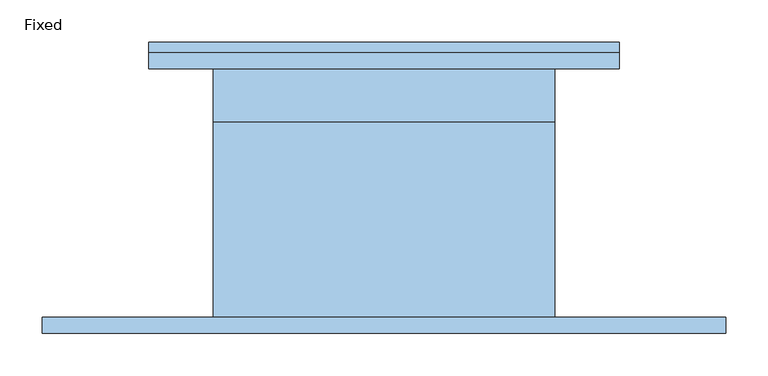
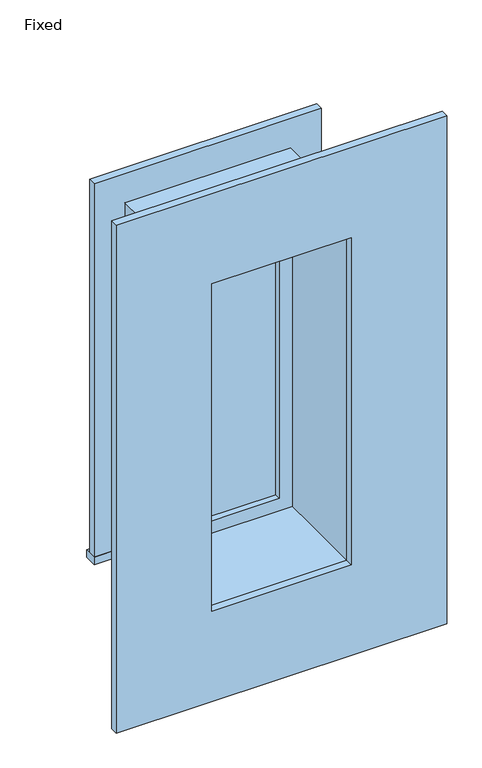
"""IFC4 building model written with IfcOpenShell, lengths in millimetres: window geometry."""

import ifcopenshell
import ifcopenshell.guid

model = None  # the IFC model being written
_history = None  # IfcOwnerHistory: only IFC2X3 demands one
_inside = {}  # id of a spatial element -> (the spatial element, [elements in it])
_under = {}  # id of a project, library or spatial element -> (it, [spatial elements below it])
_declared = {}  # id of a project -> (the project, [libraries it declares])
_typed = {}  # id of a type object -> (the type object, [elements of that type])
_made_of = {}  # id of a material, layer set ... -> (it, [elements and type objects made of it])


def new_model(schema):
    """Start an empty IFC model of exactly this schema.

    Asked for "IFC4X3", IfcOpenShell would pick the latest addendum, in which some entities
    have other attributes; the version numbers below select the first issue.
    IFC2X3 requires an IfcOwnerHistory on every rooted entity: one is made here for all.
    """
    global model, _history
    if schema == "IFC4X3":
        model = ifcopenshell.file(schema_version=(4, 3, 0, 0))
    else:
        model = ifcopenshell.file(schema=schema)
    _inside.clear()
    _under.clear()
    _declared.clear()
    _typed.clear()
    _made_of.clear()
    _history = None
    if model.schema == "IFC2X3":
        org = make("IfcOrganization", Name="unknown")
        user = make(
            "IfcPersonAndOrganization",
            ThePerson=make("IfcPerson", FamilyName="unknown"),
            TheOrganization=org,
        )
        app = make(
            "IfcApplication",
            ApplicationDeveloper=org,
            Version="unknown",
            ApplicationFullName="unknown",
            ApplicationIdentifier="unknown",
        )
        _history = make(
            "IfcOwnerHistory",
            OwningUser=user,
            OwningApplication=app,
            ChangeAction="ADDED",
            CreationDate=0,
        )
    return model


def make(cls, **values):
    """One entity of the class cls with the attributes given. An attribute that is None is left unset."""
    return model.create_entity(
        cls, **{name: value for name, value in values.items() if value is not None}
    )


def rooted(cls, **values):
    """An entity with a GlobalId (a new one), such as an element, a storey or a relation."""
    return make(cls, GlobalId=ifcopenshell.guid.new(), OwnerHistory=_history, **values)


def si_unit(unit_type, name, prefix=None):
    """IfcSIUnit, for example si_unit("LENGTHUNIT", "METRE", prefix="MILLI")."""
    return make("IfcSIUnit", UnitType=unit_type, Prefix=prefix, Name=name)


def assignment(units):
    """IfcUnitAssignment: the units of a project."""
    return None if units is None else make("IfcUnitAssignment", Units=units)


def point(xyz):
    """IfcCartesianPoint."""
    return None if xyz is None else make("IfcCartesianPoint", Coordinates=xyz)


def direction(xyz):
    """IfcDirection."""
    return None if xyz is None else make("IfcDirection", DirectionRatios=xyz)


def frame(location, z_axis=None, x_axis=None):
    """IfcAxis2Placement3D, a coordinate frame: its origin and axes. An axis left out is left unset."""
    return make(
        "IfcAxis2Placement3D",
        Location=point(location),
        Axis=direction(z_axis),
        RefDirection=direction(x_axis),
    )


def origin():
    """The frame at (0, 0, 0) with its axes left unset."""
    return frame((0.0, 0.0, 0.0))


def place(relative_to, where):
    """IfcLocalPlacement: puts the frame where relative to a parent placement (None: the world)."""
    return make(
        "IfcLocalPlacement", PlacementRelTo=relative_to, RelativePlacement=where
    )


def context(
    kind, dimensions, precision=None, world=None, true_north=None, identifier=None
):
    """IfcGeometricRepresentationContext, for example the 3D "Model" context."""
    return make(
        "IfcGeometricRepresentationContext",
        ContextIdentifier=identifier,
        ContextType=kind,
        CoordinateSpaceDimension=dimensions,
        Precision=precision,
        WorldCoordinateSystem=world,
        TrueNorth=true_north,
    )


def project(units=None, contexts=None):
    """IfcProject with its units and contexts."""
    return rooted(
        "IfcProject",
        Name="project",
        RepresentationContexts=contexts,
        UnitsInContext=assignment(units),
    )


def spatial(cls, under=None, at=None, **own):
    """A site, building, storey or space (cls), placed at a placement, below another one or the project."""
    s = rooted(cls, ObjectPlacement=at, **own)
    if under is not None:
        _under.setdefault(under.id(), (under, []))[1].append(s)
    return s


def polyline(points):
    """IfcPolyline through the points."""
    return make("IfcPolyline", Points=[point(p) for p in points])


def outline(outer, holes=None, kind="AREA"):
    """IfcArbitraryClosedProfileDef: a profile drawn as a closed curve; with holes, ...WithVoids."""
    if holes is None:
        return make("IfcArbitraryClosedProfileDef", ProfileType=kind, OuterCurve=outer)
    return make(
        "IfcArbitraryProfileDefWithVoids",
        ProfileType=kind,
        OuterCurve=outer,
        InnerCurves=holes,
    )


def extrude(swept, where, along, depth):
    """IfcExtrudedAreaSolid: the profile swept, set in the frame where, extruded along a direction by depth."""
    return make(
        "IfcExtrudedAreaSolid",
        SweptArea=swept,
        Position=where,
        ExtrudedDirection=direction(along),
        Depth=depth,
    )


def shape(context_of_items, identifier, shape_type, items):
    """IfcShapeRepresentation: the items that make up one representation, for example the "Body"."""
    return make(
        "IfcShapeRepresentation",
        ContextOfItems=context_of_items,
        RepresentationIdentifier=identifier,
        RepresentationType=shape_type,
        Items=items,
    )


def source(mapping_origin, context_of_items, identifier, shape_type, items):
    """IfcRepresentationMap: a shape defined once, which mapped items show again and again."""
    return make(
        "IfcRepresentationMap",
        MappingOrigin=mapping_origin,
        MappedRepresentation=shape(context_of_items, identifier, shape_type, items),
    )


def transform(
    local_origin,
    x_axis=None,
    y_axis=None,
    z_axis=None,
    scale=None,
    scale2=None,
    scale3=None,
    uniform=True,
):
    """IfcCartesianTransformationOperator3D, or its non-uniform kind. x_axis, y_axis, z_axis: its Axis1, 2, 3."""
    if uniform:
        return make(
            "IfcCartesianTransformationOperator3D",
            Axis1=direction(x_axis),
            Axis2=direction(y_axis),
            LocalOrigin=point(local_origin),
            Scale=scale,
            Axis3=direction(z_axis),
        )
    return make(
        "IfcCartesianTransformationOperator3DnonUniform",
        Axis1=direction(x_axis),
        Axis2=direction(y_axis),
        LocalOrigin=point(local_origin),
        Scale=scale,
        Axis3=direction(z_axis),
        Scale2=scale2,
        Scale3=scale3,
    )


def mapped(mapping_source, mapping_target):
    """IfcMappedItem: shows the shape of a source again, moved by a transform."""
    return make(
        "IfcMappedItem", MappingSource=mapping_source, MappingTarget=mapping_target
    )


def made_of(thing, what):
    """Note that an element or type object is made of a material, layer set ...; save() writes the relation."""
    if what is not None:
        _made_of.setdefault(what.id(), (what, []))[1].append(thing)
    return thing


def element(
    cls,
    number,
    at=None,
    inside=None,
    cuts=None,
    type_object=None,
    material=None,
    context=None,
    identifier="Body",
    shape_type=None,
    held_by="IfcProductDefinitionShape",
    body=None,
    shapes=None,
    **own,
):
    """One element of the class cls, such as IfcWall. Its Tag is "e" and its number.

    at: its placement. inside: the storey or other place that contains it. cuts: it is an
    opening in that element (IfcRelVoidsElement). A single representation is given by context,
    identifier, shape_type and body (its items); several are given by shapes. held_by: the class
    of the entity that holds the representations. save() writes the other relations.
    """
    e = rooted(cls, Tag="e%d" % number, ObjectPlacement=at, **own)
    if body is not None:
        shapes = [shape(context, identifier, shape_type, body)]
    if shapes is not None:
        e.Representation = make(held_by, Representations=shapes)
    if inside is not None:
        _inside.setdefault(inside.id(), (inside, []))[1].append(e)
    if cuts is not None:
        rooted(
            "IfcRelVoidsElement", RelatingBuildingElement=cuts, RelatedOpeningElement=e
        )
    if type_object is not None:
        _typed.setdefault(type_object.id(), (type_object, []))[1].append(e)
    return made_of(e, material)


def aggregate(whole, parts):
    """IfcRelAggregates: a whole, such as a stair, and the parts it consists of."""
    return rooted("IfcRelAggregates", RelatingObject=whole, RelatedObjects=parts)


def save(model, path):
    """Write the relations noted so far, then the file.

    IfcRelAggregates (storeys below a building ...), IfcRelContainedInSpatialStructure (elements
    in a storey), IfcRelDefinesByType, IfcRelAssociatesMaterial and IfcRelDeclares: one each for
    every whole, place, type object, material and project.
    """
    for whole, parts in _under.values():
        aggregate(whole, parts)
    for where, things in _inside.values():
        rooted(
            "IfcRelContainedInSpatialStructure",
            RelatedElements=things,
            RelatingStructure=where,
        )
    for kind, things in _typed.values():
        rooted("IfcRelDefinesByType", RelatedObjects=things, RelatingType=kind)
    for what, things in _made_of.values():
        rooted("IfcRelAssociatesMaterial", RelatedObjects=things, RelatingMaterial=what)
    for by, libraries in _declared.values():
        rooted("IfcRelDeclares", RelatingContext=by, RelatedDefinitions=libraries)
    model.write(path)


def fixed_431f5485(model_context):
    return source(origin(), model_context, "Body", "SweptSolid", [
        extrude(outline(polyline([(-317.5, 179.3875), (241.3, 179.3875), (241.3, 147.6375), (-317.5, 147.6375), (-317.5, 179.3875)])), frame((0.0, 0.0, 914.4), z_axis=(0.0, 0.0, 1.0), x_axis=(1.0, 0.0, 0.0)), (0.0, 0.0, 1.0), 19.05),
        extrude(outline(polyline([(1809.75, -222.25), (1809.75, 146.05), (933.45, 146.05), (933.45, 241.3), (1905.0, 241.3), (1905.0, -317.5), (933.45, -317.5), (933.45, -222.25), (1809.75, -222.25)])), frame((0.0, 147.6375, 0.0), z_axis=(0.0, 1.0, 0.0), x_axis=(0.0, 0.0, 1.0)), (0.0, 0.0, 1.0), 19.05),
        extrude(outline(polyline([(2032.0, 368.3), (2032.0, -444.5), (711.2, -444.5), (711.2, 368.3), (2032.0, 368.3)]), holes=[polyline([(1797.05, 133.35), (946.15, 133.35), (946.15, -209.55), (1797.05, -209.55), (1797.05, 133.35)])]), frame((0.0, -166.6875, 0.0), z_axis=(0.0, 1.0, 0.0), x_axis=(0.0, 0.0, 1.0)), (0.0, 0.0, 1.0), 19.05),
        extrude(outline(polyline([(101.6, 100.0125), (-177.8, 100.0125), (-177.8, 112.7125), (101.6, 112.7125), (101.6, 100.0125)])), frame((0.0, 0.0, 977.9), z_axis=(0.0, 0.0, 1.0), x_axis=(1.0, 0.0, 0.0)), (0.0, 0.0, 1.0), 787.4),
        extrude(outline(polyline([(1809.75, -222.25), (933.45, -222.25), (933.45, 146.05), (1809.75, 146.05), (1809.75, -222.25)]), holes=[polyline([(1765.3, -177.8), (1765.3, 101.6), (977.9, 101.6), (977.9, -177.8), (1765.3, -177.8)])]), frame((0.0, 84.1375, 0.0), z_axis=(0.0, 1.0, 0.0), x_axis=(0.0, 0.0, 1.0)), (0.0, 0.0, 1.0), 44.45),
        extrude(outline(polyline([(1828.8, -241.3), (914.4, -241.3), (914.4, 165.1), (1828.8, 165.1), (1828.8, -241.3)]), holes=[polyline([(1797.05, -209.55), (1797.05, 133.35), (946.15, 133.35), (946.15, -209.55), (1797.05, -209.55)])]), frame((0.0, -147.6375, 0.0), z_axis=(0.0, 1.0, 0.0), x_axis=(0.0, 0.0, 1.0)), (0.0, 0.0, 1.0), 231.775),
        extrude(outline(polyline([(1828.8, 165.1), (1828.8, -241.3), (914.4, -241.3), (914.4, 165.1), (1828.8, 165.1)]), holes=[polyline([(1809.75, 146.05), (933.45, 146.05), (933.45, -222.25), (1809.75, -222.25), (1809.75, 146.05)])]), frame((0.0, 84.1375, 0.0), z_axis=(0.0, 1.0, 0.0), x_axis=(0.0, 0.0, 1.0)), (0.0, 0.0, 1.0), 63.5),
    ])


if __name__ == "__main__":
    model = new_model("IFC4")
    model_context = context("Model", 3, world=origin())
    ifc_project = project(units=[si_unit("LENGTHUNIT", "METRE", prefix="MILLI")], contexts=[model_context])
    site = spatial("IfcSite", under=ifc_project)
    building = spatial("IfcBuilding", under=site)
    placement = place(None, origin())
    fixed_shape = fixed_431f5485(model_context)
    element("IfcWindow", 1, ObjectType="Fixed : 16\"w x 24\"h", at=placement, inside=building, context=model_context, shape_type="MappedRepresentation", body=[
        mapped(fixed_shape, transform((0.0, 0.0, 0.0), x_axis=(1.0, 0.0, 0.0), y_axis=(0.0, 1.0, 0.0), z_axis=(0.0, 0.0, 1.0))),
    ])
    save(model, "model.ifc")
